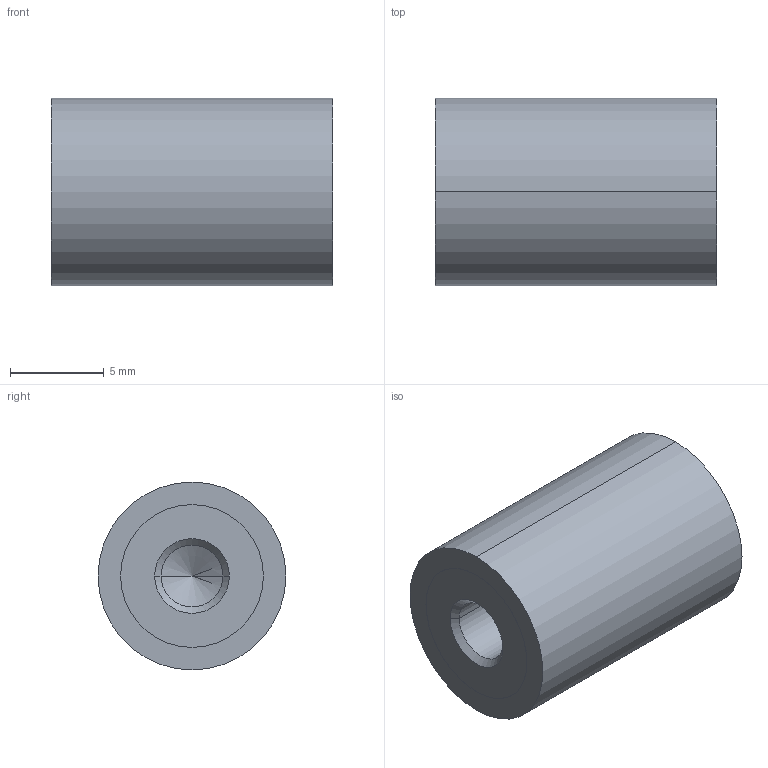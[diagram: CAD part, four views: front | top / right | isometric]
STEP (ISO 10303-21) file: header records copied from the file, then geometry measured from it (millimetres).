
FILE_DESCRIPTION (( 'STEP AP214' ), '1' );
FILE_NAME ('351-10-15-M4-EE-40.step', '2025-07-23T09:55:07', ( '' ), ( '' ), 'SwSTEP 2.0', 'SolidWorks 2022', '' );
FILE_SCHEMA (( 'AUTOMOTIVE_DESIGN' ));
Length unit declared in the file: millimetre
Products named in the file (1): 351-10-15-M4-EE-40
Bounding box: 15 x 10 x 10 mm (x, y, z)
Volume: 1093.9 mm3; surface area: 720.5 mm2
Topology: 1 solids, 1 shells, 28 faces, 58 edges, 34 vertices
Faces by surface type: cylinder 14, cone 8, plane 6
Entity records: 844 total; most frequent: DIRECTION 144, CARTESIAN_POINT 117, ORIENTED_EDGE 108, AXIS2_PLACEMENT_3D 61, EDGE_CURVE 54, VERTEX_POINT 34, EDGE_LOOP 34, CIRCLE 32
